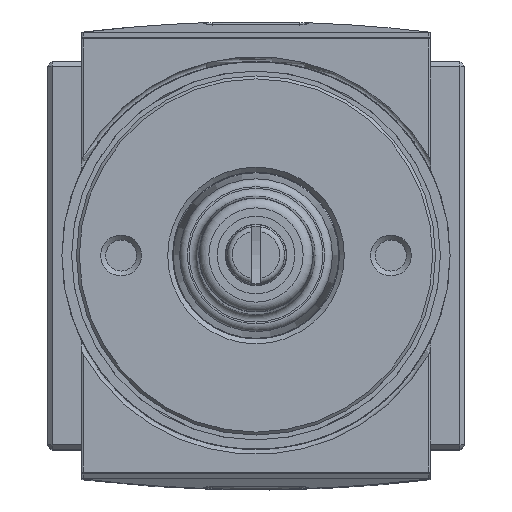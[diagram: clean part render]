
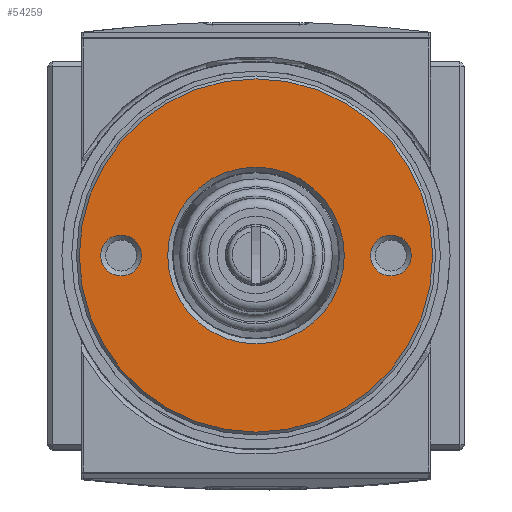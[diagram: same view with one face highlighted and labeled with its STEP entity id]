
A CAD part, top view. The second image highlights one B-rep face of the part: STEP entity #54259.
In plain terms, the highlighted planar face has unit normal (0, 0, 1).
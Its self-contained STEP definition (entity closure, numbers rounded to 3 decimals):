
#4792=FACE_BOUND('',#19653,.T.);
#4793=FACE_BOUND('',#19654,.T.);
#4794=FACE_BOUND('',#19655,.T.);
#13773=PLANE('',#58381);
#16583=FACE_OUTER_BOUND('',#19652,.T.);
#19652=EDGE_LOOP('',(#50971));
#19653=EDGE_LOOP('',(#50972));
#19654=EDGE_LOOP('',(#50973));
#19655=EDGE_LOOP('',(#50974));
#21433=CIRCLE('',#58334,18.2);
#21454=CIRCLE('',#58372,2.1);
#21456=CIRCLE('',#58376,2.1);
#21460=CIRCLE('',#58382,9.1);
#28241=VERTEX_POINT('',#143750);
#28253=VERTEX_POINT('',#143805);
#28255=VERTEX_POINT('',#143813);
#28259=VERTEX_POINT('',#143825);
#35820=EDGE_CURVE('',#28241,#28241,#21433,.T.);
#35846=EDGE_CURVE('',#28253,#28253,#21454,.T.);
#35850=EDGE_CURVE('',#28255,#28255,#21456,.T.);
#35856=EDGE_CURVE('',#28259,#28259,#21460,.T.);
#50971=ORIENTED_EDGE('',*,*,#35820,.F.);
#50972=ORIENTED_EDGE('',*,*,#35850,.F.);
#50973=ORIENTED_EDGE('',*,*,#35846,.F.);
#50974=ORIENTED_EDGE('',*,*,#35856,.F.);
#54259=ADVANCED_FACE('',(#16583,#4792,#4793,#4794),#13773,.T.);
#58334=AXIS2_PLACEMENT_3D('',#143751,#70311,#70312);
#58372=AXIS2_PLACEMENT_3D('',#143806,#70392,#70393);
#58376=AXIS2_PLACEMENT_3D('',#143814,#70402,#70403);
#58381=AXIS2_PLACEMENT_3D('',#143824,#70414,#70415);
#58382=AXIS2_PLACEMENT_3D('',#143826,#70416,#70417);
#70311=DIRECTION('center_axis',(0.,0.,
-1.));
#70312=DIRECTION('ref_axis',(0.,-1.,0.));
#70392=DIRECTION('center_axis',(0.,0.,
1.));
#70393=DIRECTION('ref_axis',(0.,1.,0.));
#70402=DIRECTION('center_axis',(0.,0.,
1.));
#70403=DIRECTION('ref_axis',(0.,1.,0.));
#70414=DIRECTION('center_axis',(0.,0.,
1.));
#70415=DIRECTION('ref_axis',(-1.,0.,0.));
#70416=DIRECTION('center_axis',(0.,0.,
1.));
#70417=DIRECTION('ref_axis',(0.,-1.,0.));
#143750=CARTESIAN_POINT('',(0.,18.2,27.));
#143751=CARTESIAN_POINT('Origin',(0.,0.,
27.));
#143805=CARTESIAN_POINT('',(13.9,-2.1,27.));
#143806=CARTESIAN_POINT('Origin',(13.9,0.,27.));
#143813=CARTESIAN_POINT('',(-13.9,-2.1,27.));
#143814=CARTESIAN_POINT('Origin',(-13.9,0.,27.));
#143824=CARTESIAN_POINT('Origin',(0.,13.3,27.));
#143825=CARTESIAN_POINT('',(0.,9.1,27.));
#143826=CARTESIAN_POINT('Origin',(0.,0.,
27.));
